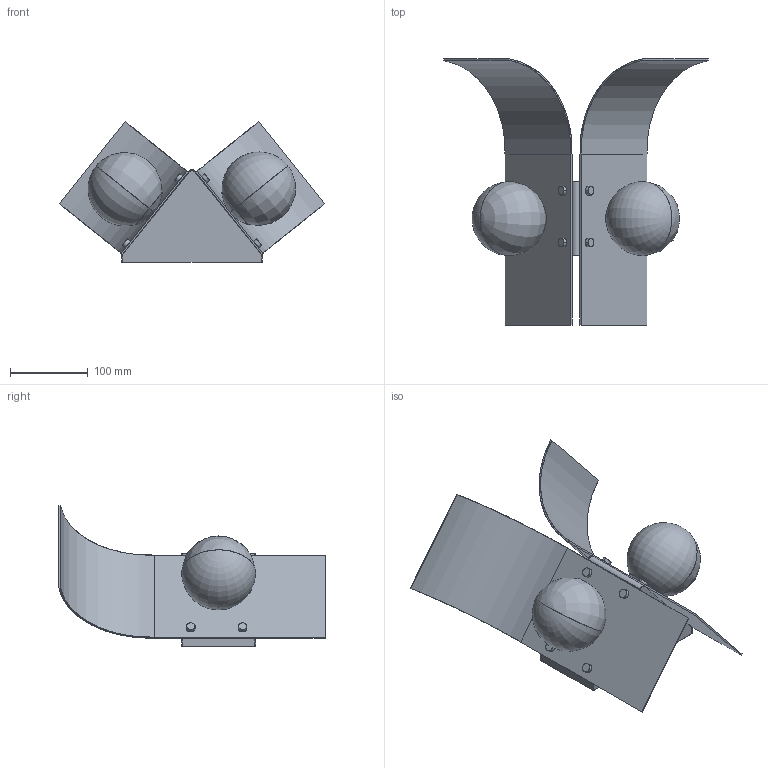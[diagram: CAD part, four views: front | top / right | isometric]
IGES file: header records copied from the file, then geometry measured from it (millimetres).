
Start section: SolidWorks IGES file using analytic representation for surfaces
Global section: file name: F:\燠隴矨\3D\2026-3\Plam Wall Light.IGS,15; native system: HSolidWorks 2022; preprocessor: SolidWorks 2022; author: MyPC; date: 260304.114556; units: millimetre
Bounding box: 340.33 x 341.65 x 180.5 mm (x, y, z)
Surface area: 454801.6 mm2 (no closed solid volume)
Topology: 0 solids, 0 shells, 93 faces, 1548 edges, 1538 vertices
Faces by surface type: bspline 47, revolution 46
